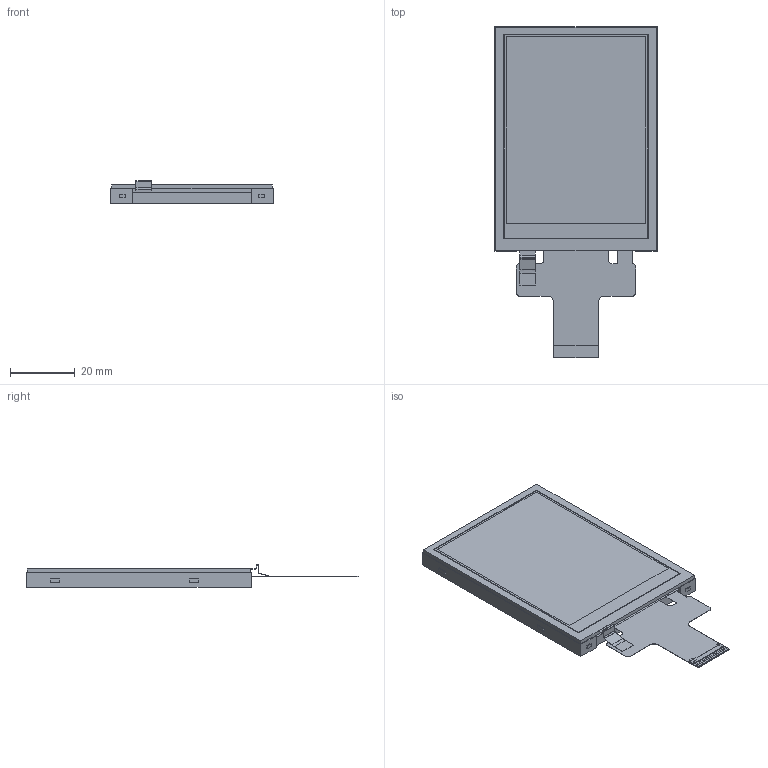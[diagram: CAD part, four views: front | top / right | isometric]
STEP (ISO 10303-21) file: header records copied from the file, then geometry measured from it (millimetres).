
FILE_DESCRIPTION (( 'STEP AP214' ), '1' );
FILE_NAME ('CFAF240320J0-028TR.STEP', '2024-02-08T21:38:12', ( '' ), ( '' ), 'SwSTEP 2.0', 'SolidWorks 2021', '' );
FILE_SCHEMA (( 'AUTOMOTIVE_DESIGN' ));
Length unit declared in the file: millimetre
Products named in the file (3): CFAF240320J0-028TR; Res touch screen; CFAF240320J0-028TN
Assembly tree (2 placements, depth 2):
  CFAF240320J0-028TR
    CFAF240320J0-028TN
    Res touch screen
Bounding box: 50.5 x 102.45 x 6.98 mm (x, y, z)
Volume: 19342.7 mm3; surface area: 17318.6 mm2
Topology: 4 solids, 4 shells, 961 faces, 2611 edges, 1746 vertices
Faces by surface type: plane 836, bspline 111, cylinder 14
Entity records: 36767 total; most frequent: CARTESIAN_POINT 13122, ORIENTED_EDGE 5222, DIRECTION 4095, EDGE_CURVE 2611, VECTOR 2329, LINE 2329, VERTEX_POINT 1746, EDGE_LOOP 1049
